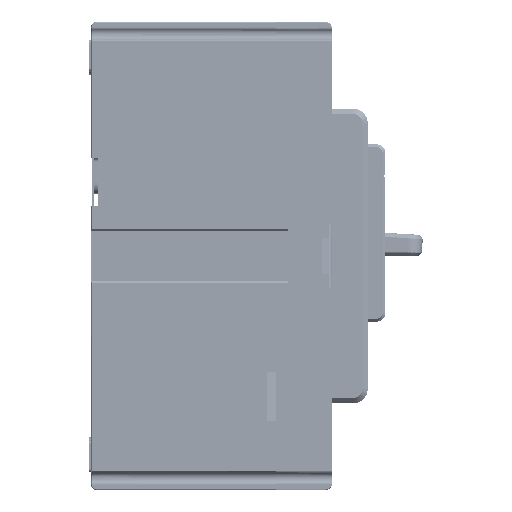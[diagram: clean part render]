
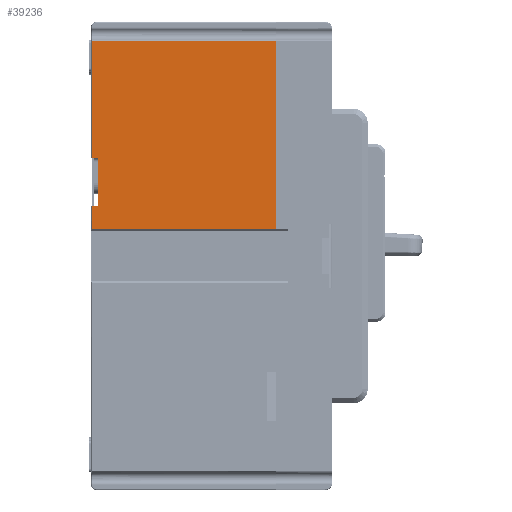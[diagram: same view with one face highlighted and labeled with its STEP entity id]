
A CAD part, left-side view. The second image highlights one B-rep face of the part: STEP entity #39236.
In plain terms, the highlighted planar face has unit normal (-1, 0, 0).
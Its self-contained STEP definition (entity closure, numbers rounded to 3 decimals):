
#3106=DIRECTION('',(0.,1.,0.));
#3107=VECTOR('',#3106,1.7);
#3108=CARTESIAN_POINT('',(-38.5,50.,14.));
#3109=LINE('',#3108,#3107);
#3120=DIRECTION('',(0.,0.,-1.));
#3121=VECTOR('',#3120,6.5);
#3122=CARTESIAN_POINT('',(-38.5,51.7,14.));
#3123=LINE('',#3122,#3121);
#3128=DIRECTION('',(0.,0.,-1.));
#3129=VECTOR('',#3128,53.072);
#3130=CARTESIAN_POINT('',(-38.5,0.,60.572));
#3131=LINE('',#3130,#3129);
#3132=DIRECTION('',(0.,1.,0.));
#3133=VECTOR('',#3132,51.7);
#3134=CARTESIAN_POINT('',(-38.5,0.,7.5));
#3135=LINE('',#3134,#3133);
#3136=DIRECTION('',(0.,0.,1.));
#3137=VECTOR('',#3136,13.6);
#3138=CARTESIAN_POINT('',(-38.5,50.,14.));
#3139=LINE('',#3138,#3137);
#3140=DIRECTION('',(0.,1.,0.));
#3141=VECTOR('',#3140,1.7);
#3142=CARTESIAN_POINT('',(-38.5,50.,27.6));
#3143=LINE('',#3142,#3141);
#3148=DIRECTION('',(0.,1.,0.));
#3149=VECTOR('',#3148,51.7);
#3150=CARTESIAN_POINT('',(-38.5,0.,60.572));
#3151=LINE('',#3150,#3149);
#3451=DIRECTION('',(0.,0.,-1.));
#3452=VECTOR('',#3451,32.972);
#3453=CARTESIAN_POINT('',(-38.5,51.7,60.572));
#3454=LINE('',#3453,#3452);
#28194=CARTESIAN_POINT('',(-38.5,0.,7.5));
#28195=VERTEX_POINT('',#28194);
#28196=CARTESIAN_POINT('',(-38.5,0.,60.572));
#28197=VERTEX_POINT('',#28196);
#29432=CARTESIAN_POINT('',(-38.5,51.7,60.572));
#29433=VERTEX_POINT('',#29432);
#29434=CARTESIAN_POINT('',(-38.5,51.7,7.5));
#29435=VERTEX_POINT('',#29434);
#29436=CARTESIAN_POINT('',(-38.5,51.7,14.));
#29437=VERTEX_POINT('',#29436);
#29438=CARTESIAN_POINT('',(-38.5,50.,14.));
#29439=VERTEX_POINT('',#29438);
#29440=CARTESIAN_POINT('',(-38.5,50.,27.6));
#29441=VERTEX_POINT('',#29440);
#29442=CARTESIAN_POINT('',(-38.5,51.7,27.6));
#29443=VERTEX_POINT('',#29442);
#39216=CARTESIAN_POINT('',(-38.5,0.,-66.));
#39217=DIRECTION('',(-1.,0.,0.));
#39218=DIRECTION('',(0.,0.,1.));
#39219=AXIS2_PLACEMENT_3D('',#39216,#39217,#39218);
#39220=PLANE('',#39219);
#39222=ORIENTED_EDGE('',*,*,#39221,.F.);
#39224=ORIENTED_EDGE('',*,*,#39223,.T.);
#39225=ORIENTED_EDGE('',*,*,#39206,.T.);
#39226=ORIENTED_EDGE('',*,*,#39195,.F.);
#39227=ORIENTED_EDGE('',*,*,#39181,.F.);
#39229=ORIENTED_EDGE('',*,*,#39228,.T.);
#39231=ORIENTED_EDGE('',*,*,#39230,.T.);
#39233=ORIENTED_EDGE('',*,*,#39232,.F.);
#39234=EDGE_LOOP('',(#39222,#39224,#39225,#39226,#39227,#39229,#39231,#39233));
#39235=FACE_OUTER_BOUND('',#39234,.F.);
#39236=ADVANCED_FACE('',(#39235),#39220,.T.);
#39181=EDGE_CURVE('',#29439,#29437,#3109,.T.);
#39195=EDGE_CURVE('',#29437,#29435,#3123,.T.);
#39206=EDGE_CURVE('',#28195,#29435,#3135,.T.);
#39221=EDGE_CURVE('',#28197,#29433,#3151,.T.);
#39223=EDGE_CURVE('',#28197,#28195,#3131,.T.);
#39228=EDGE_CURVE('',#29439,#29441,#3139,.T.);
#39230=EDGE_CURVE('',#29441,#29443,#3143,.T.);
#39232=EDGE_CURVE('',#29433,#29443,#3454,.T.);
